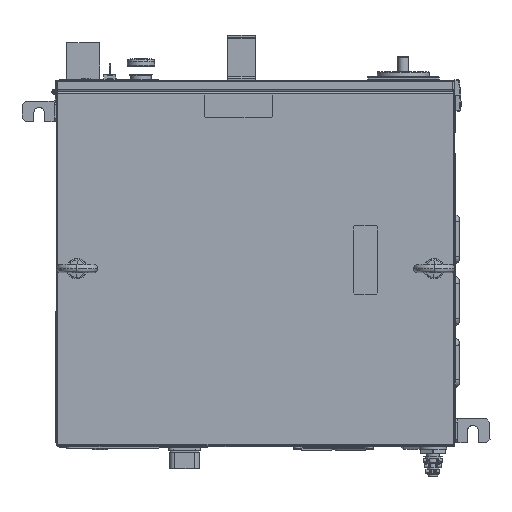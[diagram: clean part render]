
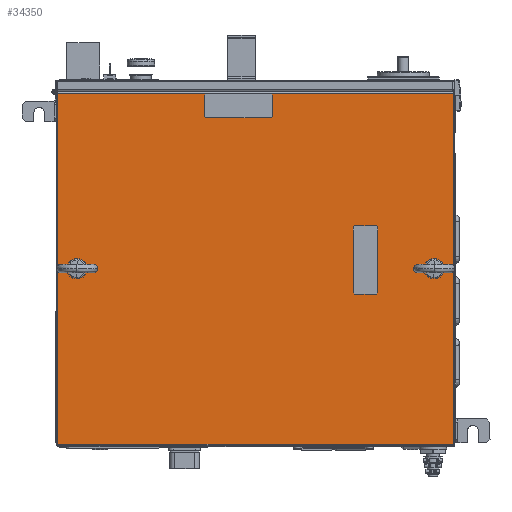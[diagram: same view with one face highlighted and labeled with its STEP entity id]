
A CAD part, top view. The second image highlights one B-rep face of the part: STEP entity #34350.
In plain terms, the highlighted planar face has unit normal (0, 0, 1).
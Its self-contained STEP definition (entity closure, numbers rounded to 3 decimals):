
#2918=FACE_BOUND('',#11333,.T.);
#2919=FACE_BOUND('',#11334,.T.);
#3731=LINE('',#52796,#6668);
#3735=LINE('',#52874,#6672);
#3736=LINE('',#52875,#6673);
#3737=LINE('',#52876,#6674);
#3738=LINE('',#52879,#6675);
#3739=LINE('',#52881,#6676);
#3740=LINE('',#52883,#6677);
#3741=LINE('',#52885,#6678);
#3742=LINE('',#52887,#6679);
#3743=LINE('',#52889,#6680);
#3744=LINE('',#52891,#6681);
#3745=LINE('',#52892,#6682);
#3746=LINE('',#52895,#6683);
#3747=LINE('',#52897,#6684);
#3748=LINE('',#52899,#6685);
#3749=LINE('',#52901,#6686);
#3750=LINE('',#52903,#6687);
#3751=LINE('',#52905,#6688);
#3752=LINE('',#52907,#6689);
#3753=LINE('',#52908,#6690);
#6668=VECTOR('',#40953,1.);
#6672=VECTOR('',#40981,1.);
#6673=VECTOR('',#40982,1.);
#6674=VECTOR('',#40983,1.);
#6675=VECTOR('',#40984,1.);
#6676=VECTOR('',#40985,1.);
#6677=VECTOR('',#40986,1.);
#6678=VECTOR('',#40987,1.);
#6679=VECTOR('',#40988,1.);
#6680=VECTOR('',#40989,1.);
#6681=VECTOR('',#40990,1.);
#6682=VECTOR('',#40991,1.);
#6683=VECTOR('',#40992,1.);
#6684=VECTOR('',#40993,1.);
#6685=VECTOR('',#40994,1.);
#6686=VECTOR('',#40995,1.);
#6687=VECTOR('',#40996,1.);
#6688=VECTOR('',#40997,1.);
#6689=VECTOR('',#40998,1.);
#6690=VECTOR('',#40999,1.);
#9263=FACE_OUTER_BOUND('',#11332,.T.);
#11332=EDGE_LOOP('',(#23724,#23725,#23726,#23727));
#11333=EDGE_LOOP('',(#23728,#23729,#23730,#23731,#23732,#23733,#23734,#23735));
#11334=EDGE_LOOP('',(#23736,#23737,#23738,#23739,#23740,#23741,#23742,#23743));
#14184=VERTEX_POINT('',#52793);
#14185=VERTEX_POINT('',#52795);
#14192=VERTEX_POINT('',#52872);
#14193=VERTEX_POINT('',#52873);
#14194=VERTEX_POINT('',#52877);
#14195=VERTEX_POINT('',#52878);
#14196=VERTEX_POINT('',#52880);
#14197=VERTEX_POINT('',#52882);
#14198=VERTEX_POINT('',#52884);
#14199=VERTEX_POINT('',#52886);
#14200=VERTEX_POINT('',#52888);
#14201=VERTEX_POINT('',#52890);
#14202=VERTEX_POINT('',#52893);
#14203=VERTEX_POINT('',#52894);
#14204=VERTEX_POINT('',#52896);
#14205=VERTEX_POINT('',#52898);
#14206=VERTEX_POINT('',#52900);
#14207=VERTEX_POINT('',#52902);
#14208=VERTEX_POINT('',#52904);
#14209=VERTEX_POINT('',#52906);
#17769=EDGE_CURVE('',#14185,#14184,#3731,.F.);
#17781=EDGE_CURVE('',#14192,#14193,#3735,.F.);
#17782=EDGE_CURVE('',#14193,#14185,#3736,.T.);
#17783=EDGE_CURVE('',#14184,#14192,#3737,.F.);
#17784=EDGE_CURVE('',#14194,#14195,#3738,.T.);
#17785=EDGE_CURVE('',#14194,#14196,#3739,.T.);
#17786=EDGE_CURVE('',#14196,#14197,#3740,.T.);
#17787=EDGE_CURVE('',#14197,#14198,#3741,.T.);
#17788=EDGE_CURVE('',#14198,#14199,#3742,.T.);
#17789=EDGE_CURVE('',#14199,#14200,#3743,.T.);
#17790=EDGE_CURVE('',#14201,#14200,#3744,.T.);
#17791=EDGE_CURVE('',#14195,#14201,#3745,.T.);
#17792=EDGE_CURVE('',#14202,#14203,#3746,.T.);
#17793=EDGE_CURVE('',#14203,#14204,#3747,.T.);
#17794=EDGE_CURVE('',#14204,#14205,#3748,.T.);
#17795=EDGE_CURVE('',#14205,#14206,#3749,.T.);
#17796=EDGE_CURVE('',#14206,#14207,#3750,.T.);
#17797=EDGE_CURVE('',#14207,#14208,#3751,.T.);
#17798=EDGE_CURVE('',#14208,#14209,#3752,.T.);
#17799=EDGE_CURVE('',#14209,#14202,#3753,.T.);
#23724=ORIENTED_EDGE('',*,*,#17781,.T.);
#23725=ORIENTED_EDGE('',*,*,#17782,.T.);
#23726=ORIENTED_EDGE('',*,*,#17769,.T.);
#23727=ORIENTED_EDGE('',*,*,#17783,.T.);
#23728=ORIENTED_EDGE('',*,*,#17784,.F.);
#23729=ORIENTED_EDGE('',*,*,#17785,.T.);
#23730=ORIENTED_EDGE('',*,*,#17786,.T.);
#23731=ORIENTED_EDGE('',*,*,#17787,.T.);
#23732=ORIENTED_EDGE('',*,*,#17788,.T.);
#23733=ORIENTED_EDGE('',*,*,#17789,.T.);
#23734=ORIENTED_EDGE('',*,*,#17790,.F.);
#23735=ORIENTED_EDGE('',*,*,#17791,.F.);
#23736=ORIENTED_EDGE('',*,*,#17792,.T.);
#23737=ORIENTED_EDGE('',*,*,#17793,.T.);
#23738=ORIENTED_EDGE('',*,*,#17794,.T.);
#23739=ORIENTED_EDGE('',*,*,#17795,.T.);
#23740=ORIENTED_EDGE('',*,*,#17796,.T.);
#23741=ORIENTED_EDGE('',*,*,#17797,.T.);
#23742=ORIENTED_EDGE('',*,*,#17798,.T.);
#23743=ORIENTED_EDGE('',*,*,#17799,.T.);
#32936=PLANE('',#36461);
#34350=ADVANCED_FACE('',(#9263,#2918,#2919),#32936,.F.);
#36461=AXIS2_PLACEMENT_3D('',#52871,#40979,#40980);
#40953=DIRECTION('',(1.,0.,0.));
#40979=DIRECTION('center_axis',(0.,0.,-1.));
#40980=DIRECTION('ref_axis',(1.,0.,0.));
#40981=DIRECTION('',(-1.,0.,0.));
#40982=DIRECTION('',(0.,1.,0.));
#40983=DIRECTION('',(0.,1.,0.));
#40984=DIRECTION('',(1.,0.,0.));
#40985=DIRECTION('',(-0.707,0.707,0.));
#40986=DIRECTION('',(0.,1.,0.));
#40987=DIRECTION('',(0.707,0.707,0.));
#40988=DIRECTION('',(1.,0.,0.));
#40989=DIRECTION('',(0.707,-0.707,0.));
#40990=DIRECTION('',(0.,1.,0.));
#40991=DIRECTION('',(0.707,0.707,0.));
#40992=DIRECTION('',(0.,1.,0.));
#40993=DIRECTION('',(0.707,0.707,0.));
#40994=DIRECTION('',(1.,0.,0.));
#40995=DIRECTION('',(0.707,-0.707,0.));
#40996=DIRECTION('',(0.,-1.,0.));
#40997=DIRECTION('',(-0.707,-0.707,0.));
#40998=DIRECTION('',(-1.,0.,0.));
#40999=DIRECTION('',(-0.707,0.707,0.));
#52793=CARTESIAN_POINT('',(-578.,-2.,580.));
#52795=CARTESIAN_POINT('',(-2.,-2.,580.));
#52796=CARTESIAN_POINT('',(-290.,-2.,580.));
#52871=CARTESIAN_POINT('Origin',(-580.,0.,580.));
#52872=CARTESIAN_POINT('',(-578.,-513.,580.));
#52873=CARTESIAN_POINT('',(-2.,-513.,580.));
#52874=CARTESIAN_POINT('',(-290.,-513.,580.));
#52875=CARTESIAN_POINT('',(-2.,-257.5,580.));
#52876=CARTESIAN_POINT('',(-578.,-257.5,580.));
#52877=CARTESIAN_POINT('',(-145.5,-294.8,580.));
#52878=CARTESIAN_POINT('',(-114.5,-294.8,580.));
#52879=CARTESIAN_POINT('',(-130.,-294.8,580.));
#52880=CARTESIAN_POINT('',(-147.5,-292.8,580.));
#52881=CARTESIAN_POINT('',(-146.5,-293.8,580.));
#52882=CARTESIAN_POINT('',(-147.5,-196.8,580.));
#52883=CARTESIAN_POINT('',(-147.5,-244.8,580.));
#52884=CARTESIAN_POINT('',(-145.5,-194.8,580.));
#52885=CARTESIAN_POINT('',(-146.5,-195.8,580.));
#52886=CARTESIAN_POINT('',(-114.5,-194.8,580.));
#52887=CARTESIAN_POINT('',(-130.,-194.8,580.));
#52888=CARTESIAN_POINT('',(-112.5,-196.8,580.));
#52889=CARTESIAN_POINT('',(-113.5,-195.8,580.));
#52890=CARTESIAN_POINT('',(-112.5,-292.8,580.));
#52891=CARTESIAN_POINT('',(-112.5,-244.8,580.));
#52892=CARTESIAN_POINT('',(-113.5,-293.8,580.));
#52893=CARTESIAN_POINT('',(-365.,-36.,580.));
#52894=CARTESIAN_POINT('',(-365.,-5.,580.));
#52895=CARTESIAN_POINT('',(-365.,-20.5,580.));
#52896=CARTESIAN_POINT('',(-363.,-3.,580.));
#52897=CARTESIAN_POINT('',(-364.,-4.,580.));
#52898=CARTESIAN_POINT('',(-267.,-3.,580.));
#52899=CARTESIAN_POINT('',(-315.,-3.,580.));
#52900=CARTESIAN_POINT('',(-265.,-5.,580.));
#52901=CARTESIAN_POINT('',(-266.,-4.,580.));
#52902=CARTESIAN_POINT('',(-265.,-36.,580.));
#52903=CARTESIAN_POINT('',(-265.,-20.5,580.));
#52904=CARTESIAN_POINT('',(-267.,-38.,580.));
#52905=CARTESIAN_POINT('',(-266.,-37.,580.));
#52906=CARTESIAN_POINT('',(-363.,-38.,580.));
#52907=CARTESIAN_POINT('',(-315.,-38.,580.));
#52908=CARTESIAN_POINT('',(-364.,-37.,580.));
